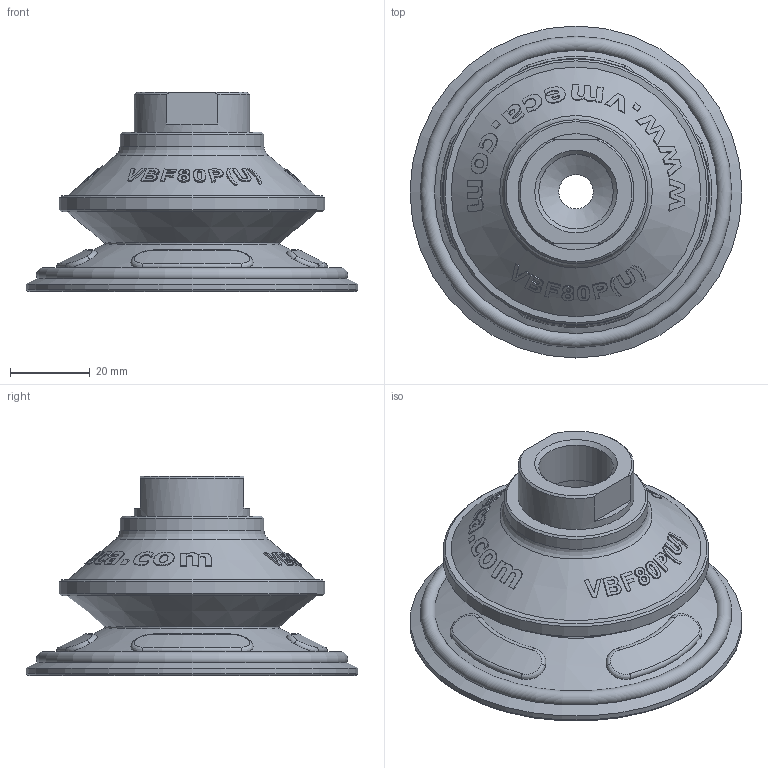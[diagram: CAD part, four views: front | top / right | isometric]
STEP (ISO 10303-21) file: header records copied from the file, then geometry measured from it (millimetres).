
FILE_DESCRIPTION( ( 'Unknown' ), '1' );
FILE_NAME( 'D:/濛機奢濰/Vacuum Pads/VBF/VBF80/STP/VBF80 P(U)_12F.stp', 'Unknown', ( 'Unknown' ), ( 'Unknown' ), 'XStep 1.0', 'Unknown', ' ' );
FILE_SCHEMA( ( 'automotive_design' ) );
Length unit declared in the file: millimetre
Products named in the file (1): 1
Bounding box: 83 x 83 x 50 mm (x, y, z)
Volume: 44068.1 mm3; surface area: 26648.5 mm2
Topology: 1 solids, 1 shells, 261 faces, 641 edges, 421 vertices
Faces by surface type: bspline 174, cone 51, torus 15, plane 12, cylinder 9
Full cylindrical faces by diameter (mm): 8.6 x1, 11.2 x1, 18.631 x2, 29 x1, 33 x1, 36 x1, 66.5 x1, 83 x1
Entity records: 21260 total; most frequent: CARTESIAN_POINT 14644, ORIENTED_EDGE 1190, EDGE_CURVE 595, B_SPLINE_CURVE_WITH_KNOTS 504, VERTEX_POINT 413, DIRECTION 350, EDGE_LOOP 340, FACE_OUTER_BOUND 283
